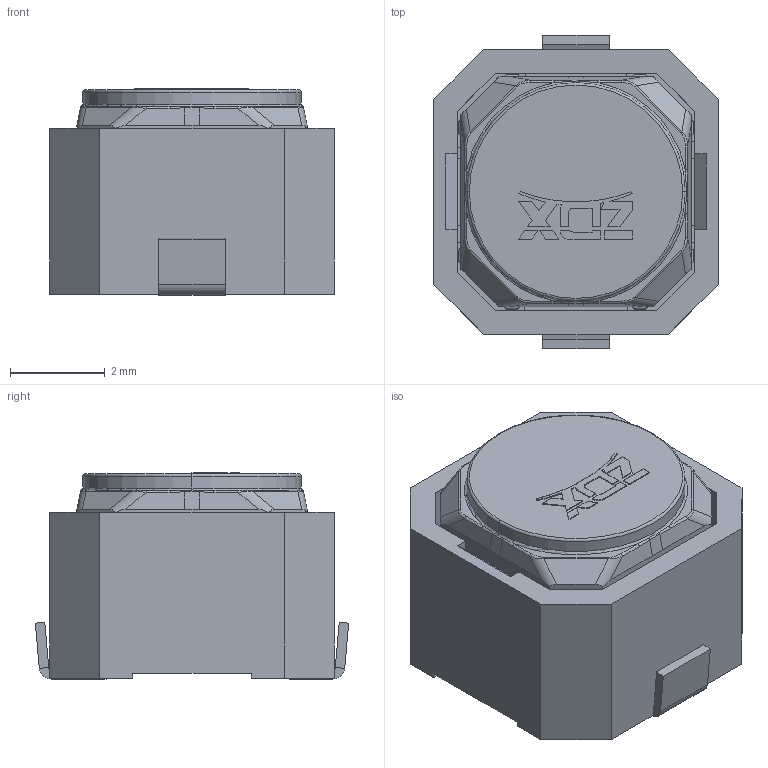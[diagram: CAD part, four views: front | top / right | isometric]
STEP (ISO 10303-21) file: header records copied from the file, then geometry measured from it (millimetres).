
FILE_DESCRIPTION((''),'2;1');
FILE_NAME('ASM0008_ASM','2024-01-06T',('WYH'),(''),'PRO/ENGINEER BY PARAMETRIC TECHNOLOGY CORPORATION, 2013040','PRO/ENGINEER BY PARAMETRIC TECHNOLOGY CORPORATION, 2013040','');
FILE_SCHEMA(('CONFIG_CONTROL_DESIGN'));
Length unit declared in the file: millimetre
Products named in the file (1): ASM0008_ASM
Bounding box: 6 x 6.61 x 4.35 mm (x, y, z)
Volume: 87 mm3; surface area: 381.9 mm2
Topology: 1 solids, 2 shells, 515 faces, 1360 edges, 857 vertices
Faces by surface type: plane 288, cylinder 148, bspline 39, torus 34, cone 6
Entity records: 16835 total; most frequent: CARTESIAN_POINT 4173, ORIENTED_EDGE 2720, DIRECTION 2534, EDGE_CURVE 1360, VECTOR 880, LINE 880, VERTEX_POINT 857, AXIS2_PLACEMENT_3D 827
